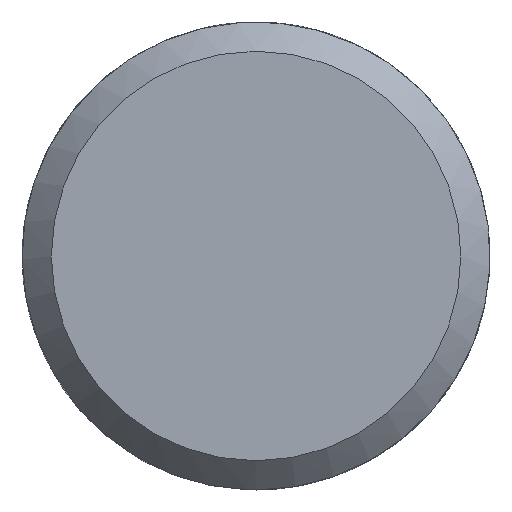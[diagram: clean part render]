
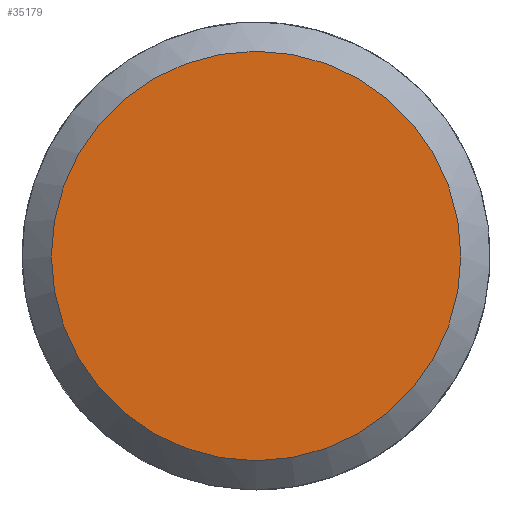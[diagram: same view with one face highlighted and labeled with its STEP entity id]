
A CAD part, left-side view. The second image highlights one B-rep face of the part: STEP entity #35179.
In plain terms, the highlighted planar face has unit normal (-1, 0, 0).
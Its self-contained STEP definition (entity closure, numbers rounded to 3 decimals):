
#9737=PLANE('',#34755);
#12616=ORIENTED_EDGE('',*,*,#14503,.F.);
#12888=CIRCLE('',#34754,3.5);
#13532=VERTEX_POINT('',#34208);
#14503=EDGE_CURVE('',#13532,#13532,#12888,.T.);
#14836=EDGE_LOOP('',(#12616));
#15169=FACE_BOUND('',#14836,.T.);
#16252=DIRECTION('',(1.,0.,0.));
#16253=DIRECTION('',(0.,-3.5,0.));
#16254=DIRECTION('',(-1.,0.,0.));
#16255=DIRECTION('',(0.,1.,0.));
#34208=CARTESIAN_POINT('',(53.295,144.443,0.));
#34209=CARTESIAN_POINT('',(53.295,147.943,0.));
#34210=CARTESIAN_POINT('',(53.295,147.943,0.));
#34754=AXIS2_PLACEMENT_3D('',#34209,#16252,#16253);
#34755=AXIS2_PLACEMENT_3D('',#34210,#16254,#16255);
#35179=ADVANCED_FACE('',(#15169),#9737,.T.);
